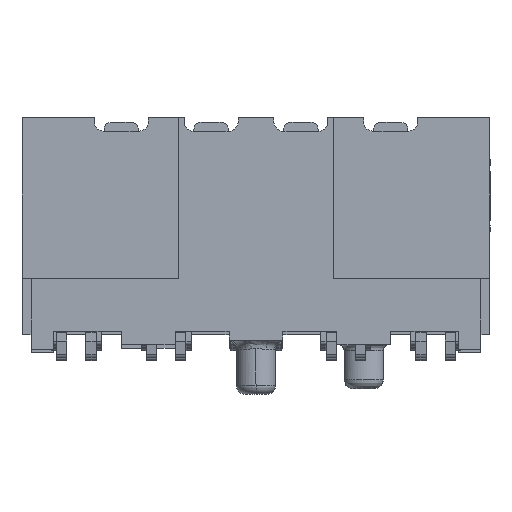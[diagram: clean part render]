
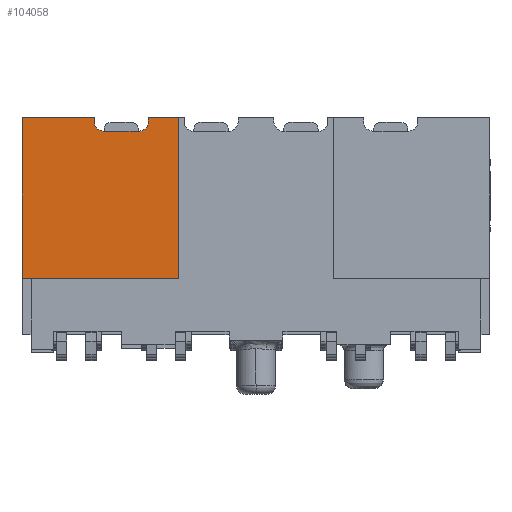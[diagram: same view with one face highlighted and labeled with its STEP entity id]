
A CAD part, top view. The second image highlights one B-rep face of the part: STEP entity #104058.
In plain terms, the highlighted planar face has unit normal (0, 0, 1).
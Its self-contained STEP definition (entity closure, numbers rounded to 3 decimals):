
#1419 = DIRECTION ( 'NONE',  ( 1., 0., 0. ) ) ;
#3440 = VECTOR ( 'NONE', #77015, 1000. ) ;
#10199 = CARTESIAN_POINT ( 'NONE',  ( -3.048, 4.826, 28.727 ) ) ;
#11173 = CARTESIAN_POINT ( 'NONE',  ( -4.318, 4.699, 28.727 ) ) ;
#13950 = AXIS2_PLACEMENT_3D ( 'NONE', #11173, #149590, #177049 ) ;
#14025 = CARTESIAN_POINT ( 'NONE',  ( -6.617, 0.279, 28.727 ) ) ;
#15792 = CARTESIAN_POINT ( 'NONE',  ( -6.617, 4.826, 28.727 ) ) ;
#19208 = CARTESIAN_POINT ( 'NONE',  ( -4.572, 4.699, 28.727 ) ) ;
#19425 = CARTESIAN_POINT ( 'NONE',  ( -4.318, 4.445, 28.727 ) ) ;
#19987 = ORIENTED_EDGE ( 'NONE', *, *, #160684, .F. ) ;
#21239 = EDGE_CURVE ( 'NONE', #82085, #178687, #168885, .T. ) ;
#21956 = VERTEX_POINT ( 'NONE', #97571 ) ;
#26273 = ORIENTED_EDGE ( 'NONE', *, *, #174711, .T. ) ;
#27231 = DIRECTION ( 'NONE',  ( 1., 0., 0. ) ) ;
#29170 = LINE ( 'NONE', #82671, #180022 ) ;
#29579 = ORIENTED_EDGE ( 'NONE', *, *, #81203, .F. ) ;
#30597 = DIRECTION ( 'NONE',  ( 1., 0., 0. ) ) ;
#33234 = CARTESIAN_POINT ( 'NONE',  ( -3.302, 4.445, 28.727 ) ) ;
#34246 = CARTESIAN_POINT ( 'NONE',  ( -4.318, 4.445, 28.727 ) ) ;
#36287 = DIRECTION ( 'NONE',  ( 0., -1., 0. ) ) ;
#37943 = CIRCLE ( 'NONE', #13950, 0.254 ) ;
#42332 = DIRECTION ( 'NONE',  ( 1., 0., 0. ) ) ;
#45384 = LINE ( 'NONE', #19425, #3440 ) ;
#46282 = EDGE_CURVE ( 'NONE', #21956, #98150, #99305, .T. ) ;
#47045 = AXIS2_PLACEMENT_3D ( 'NONE', #97714, #111115, #27231 ) ;
#51297 = LINE ( 'NONE', #10199, #53429 ) ;
#52440 = ORIENTED_EDGE ( 'NONE', *, *, #80941, .F. ) ;
#53429 = VECTOR ( 'NONE', #147381, 1000. ) ;
#53776 = CARTESIAN_POINT ( 'NONE',  ( -6.617, 0.279, 28.727 ) ) ;
#59230 = CARTESIAN_POINT ( 'NONE',  ( -3.302, 4.699, 28.727 ) ) ;
#59821 = VERTEX_POINT ( 'NONE', #19208 ) ;
#61885 = CARTESIAN_POINT ( 'NONE',  ( -6.617, 4.826, 28.727 ) ) ;
#61962 = VECTOR ( 'NONE', #160617, 1000. ) ;
#62691 = ORIENTED_EDGE ( 'NONE', *, *, #21239, .F. ) ;
#69499 = VERTEX_POINT ( 'NONE', #84554 ) ;
#70001 = AXIS2_PLACEMENT_3D ( 'NONE', #59230, #131364, #157642 ) ;
#70799 = VERTEX_POINT ( 'NONE', #164520 ) ;
#73172 = VECTOR ( 'NONE', #42332, 1000. ) ;
#77015 = DIRECTION ( 'NONE',  ( 1., 0., 0. ) ) ;
#80941 = EDGE_CURVE ( 'NONE', #70799, #21956, #51297, .T. ) ;
#81203 = EDGE_CURVE ( 'NONE', #59821, #173592, #37943, .T. ) ;
#82085 = VERTEX_POINT ( 'NONE', #61885 ) ;
#82671 = CARTESIAN_POINT ( 'NONE',  ( -2.197, 0.279, 28.727 ) ) ;
#82714 = EDGE_CURVE ( 'NONE', #105841, #82085, #99260, .T. ) ;
#84554 = CARTESIAN_POINT ( 'NONE',  ( -2.197, 0.279, 28.727 ) ) ;
#85226 = CARTESIAN_POINT ( 'NONE',  ( -4.572, 4.826, 28.727 ) ) ;
#91440 = CARTESIAN_POINT ( 'NONE',  ( -4.572, 4.826, 28.727 ) ) ;
#97099 = PLANE ( 'NONE',  #47045 ) ;
#97571 = CARTESIAN_POINT ( 'NONE',  ( -3.048, 4.826, 28.727 ) ) ;
#97714 = CARTESIAN_POINT ( 'NONE',  ( -6.617, 0.279, 28.727 ) ) ;
#98150 = VERTEX_POINT ( 'NONE', #112180 ) ;
#99135 = VECTOR ( 'NONE', #30597, 1000. ) ;
#99260 = LINE ( 'NONE', #172286, #61962 ) ;
#99305 = LINE ( 'NONE', #15792, #99135 ) ;
#104058 = ADVANCED_FACE ( 'NONE', ( #177200 ), #97099, .T. ) ;
#105841 = VERTEX_POINT ( 'NONE', #53776 ) ;
#107674 = ORIENTED_EDGE ( 'NONE', *, *, #46282, .F. ) ;
#111115 = DIRECTION ( 'NONE',  ( 0., 0., 1. ) ) ;
#111893 = EDGE_LOOP ( 'NONE', ( #137528, #62691, #150459, #26273, #161389, #107674, #52440, #19987, #125091, #29579 ) ) ;
#112180 = CARTESIAN_POINT ( 'NONE',  ( -2.197, 4.826, 28.727 ) ) ;
#115297 = VERTEX_POINT ( 'NONE', #33234 ) ;
#123054 = DIRECTION ( 'NONE',  ( 0., 1., 0. ) ) ;
#125091 = ORIENTED_EDGE ( 'NONE', *, *, #158862, .F. ) ;
#130038 = EDGE_CURVE ( 'NONE', #178687, #59821, #152038, .T. ) ;
#131364 = DIRECTION ( 'NONE',  ( 0., 0., 1. ) ) ;
#131761 = EDGE_CURVE ( 'NONE', #69499, #98150, #29170, .T. ) ;
#132428 = CIRCLE ( 'NONE', #70001, 0.254 ) ;
#136677 = LINE ( 'NONE', #14025, #73172 ) ;
#137528 = ORIENTED_EDGE ( 'NONE', *, *, #130038, .F. ) ;
#147381 = DIRECTION ( 'NONE',  ( 0., 1., 0. ) ) ;
#149590 = DIRECTION ( 'NONE',  ( 0., 0., 1. ) ) ;
#150459 = ORIENTED_EDGE ( 'NONE', *, *, #82714, .F. ) ;
#152038 = LINE ( 'NONE', #91440, #158686 ) ;
#157642 = DIRECTION ( 'NONE',  ( 1., 0., 0. ) ) ;
#158686 = VECTOR ( 'NONE', #36287, 1000. ) ;
#158862 = EDGE_CURVE ( 'NONE', #173592, #115297, #45384, .T. ) ;
#160617 = DIRECTION ( 'NONE',  ( 0., 1., 0. ) ) ;
#160684 = EDGE_CURVE ( 'NONE', #115297, #70799, #132428, .T. ) ;
#161389 = ORIENTED_EDGE ( 'NONE', *, *, #131761, .T. ) ;
#164471 = VECTOR ( 'NONE', #1419, 1000. ) ;
#164520 = CARTESIAN_POINT ( 'NONE',  ( -3.048, 4.699, 28.727 ) ) ;
#168885 = LINE ( 'NONE', #169710, #164471 ) ;
#169710 = CARTESIAN_POINT ( 'NONE',  ( -6.617, 4.826, 28.727 ) ) ;
#172286 = CARTESIAN_POINT ( 'NONE',  ( -6.617, 0.279, 28.727 ) ) ;
#173592 = VERTEX_POINT ( 'NONE', #34246 ) ;
#174711 = EDGE_CURVE ( 'NONE', #105841, #69499, #136677, .T. ) ;
#177049 = DIRECTION ( 'NONE',  ( -1., 0., 0. ) ) ;
#177200 = FACE_OUTER_BOUND ( 'NONE', #111893, .T. ) ;
#178687 = VERTEX_POINT ( 'NONE', #85226 ) ;
#180022 = VECTOR ( 'NONE', #123054, 1000. ) ;
